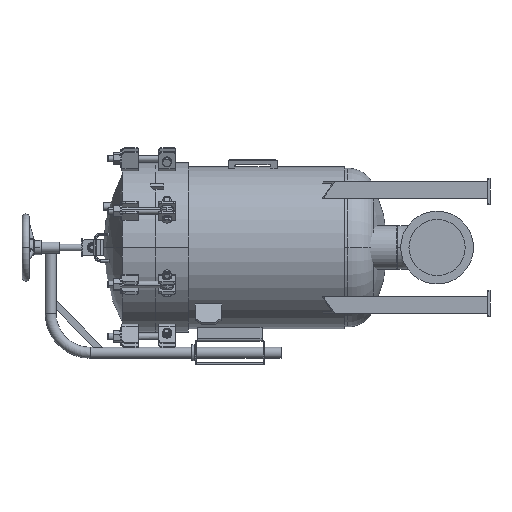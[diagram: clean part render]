
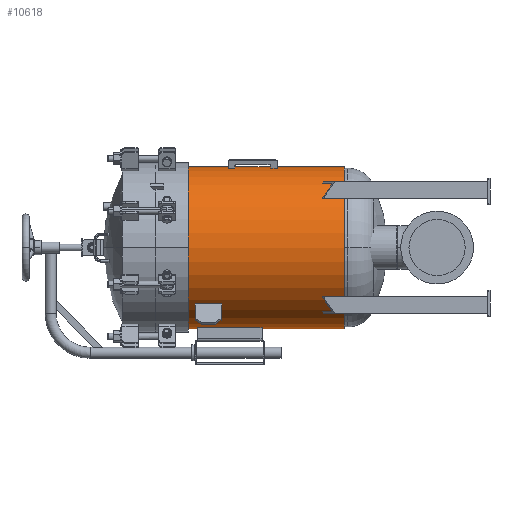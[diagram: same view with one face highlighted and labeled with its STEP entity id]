
A CAD part, left-side view. The second image highlights one B-rep face of the part: STEP entity #10618.
In plain terms, the highlighted cylindrical face has radius 311.15 mm (diameter 622.3 mm), a partial arc.
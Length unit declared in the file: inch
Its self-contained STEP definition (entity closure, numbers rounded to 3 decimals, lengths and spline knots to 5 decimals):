
#413 = AXIS2_PLACEMENT_3D ( 'NONE', #47233, #51456, #8573 ) ;
#1827 = DIRECTION ( 'NONE',  ( 0., -1., 0. ) ) ;
#3650 = VECTOR ( 'NONE', #1827, 39.37008 ) ;
#3666 = CARTESIAN_POINT ( 'NONE',  ( 0., -2.59375, -12.25 ) ) ;
#4081 = CARTESIAN_POINT ( 'NONE',  ( 0., -28.59375, 12.25 ) ) ;
#5382 = VERTEX_POINT ( 'NONE', #19797 ) ;
#8118 = AXIS2_PLACEMENT_3D ( 'NONE', #45547, #54261, #54542 ) ;
#8426 = EDGE_LOOP ( 'NONE', ( #30906, #42549, #37727, #43561 ) ) ;
#8573 = DIRECTION ( 'NONE',  ( 1., 0., 0. ) ) ;
#10618 = ADVANCED_FACE ( 'Defeatured_5090', ( #26926 ), #13691, .T. ) ;
#13691 = CYLINDRICAL_SURFACE ( 'NONE', #25196, 12.25 ) ;
#15624 = EDGE_CURVE ( 'NONE', #52944, #5382, #48142, .T. ) ;
#18189 = CARTESIAN_POINT ( 'NONE',  ( 0., -28.59375, -12.25 ) ) ;
#18694 = LINE ( 'NONE', #35900, #49210 ) ;
#19309 = LINE ( 'NONE', #35401, #3650 ) ;
#19545 = EDGE_CURVE ( 'NONE', #52944, #49676, #19309, .T. ) ;
#19598 = EDGE_CURVE ( 'NONE', #49676, #25377, #37848, .T. ) ;
#19797 = CARTESIAN_POINT ( 'NONE',  ( 0., -2.59375, 12.25 ) ) ;
#25196 = AXIS2_PLACEMENT_3D ( 'NONE', #35119, #26376, #39345 ) ;
#25377 = VERTEX_POINT ( 'NONE', #4081 ) ;
#26376 = DIRECTION ( 'NONE',  ( 0., -1., 0. ) ) ;
#26926 = FACE_OUTER_BOUND ( 'NONE', #8426, .T. ) ;
#30906 = ORIENTED_EDGE ( 'NONE', *, *, #51317, .F. ) ;
#35119 = CARTESIAN_POINT ( 'NONE',  ( 0., -2.59375, 0. ) ) ;
#35401 = CARTESIAN_POINT ( 'NONE',  ( 0., -2.59375, -12.25 ) ) ;
#35900 = CARTESIAN_POINT ( 'NONE',  ( 0., -2.59375, 12.25 ) ) ;
#37727 = ORIENTED_EDGE ( 'NONE', *, *, #19545, .T. ) ;
#37848 = CIRCLE ( 'NONE', #8118, 12.25 ) ;
#39345 = DIRECTION ( 'NONE',  ( 0., 0., -1. ) ) ;
#42549 = ORIENTED_EDGE ( 'NONE', *, *, #15624, .F. ) ;
#43561 = ORIENTED_EDGE ( 'NONE', *, *, #19598, .T. ) ;
#45547 = CARTESIAN_POINT ( 'NONE',  ( 0., -28.59375, 0. ) ) ;
#47233 = CARTESIAN_POINT ( 'NONE',  ( 0., -2.59375, 0. ) ) ;
#48142 = CIRCLE ( 'NONE', #413, 12.25 ) ;
#49210 = VECTOR ( 'NONE', #53123, 39.37008 ) ;
#49676 = VERTEX_POINT ( 'NONE', #18189 ) ;
#51317 = EDGE_CURVE ( 'NONE', #5382, #25377, #18694, .T. ) ;
#51456 = DIRECTION ( 'NONE',  ( 0., 1., 0. ) ) ;
#52944 = VERTEX_POINT ( 'NONE', #3666 ) ;
#53123 = DIRECTION ( 'NONE',  ( 0., -1., 0. ) ) ;
#54261 = DIRECTION ( 'NONE',  ( 0., 1., 0. ) ) ;
#54542 = DIRECTION ( 'NONE',  ( 1., 0., 0. ) ) ;
